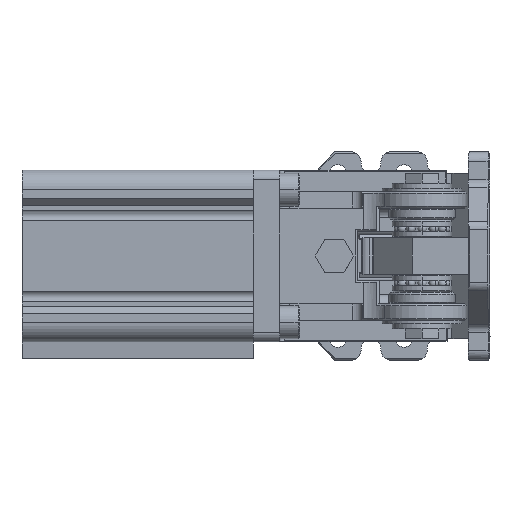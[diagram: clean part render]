
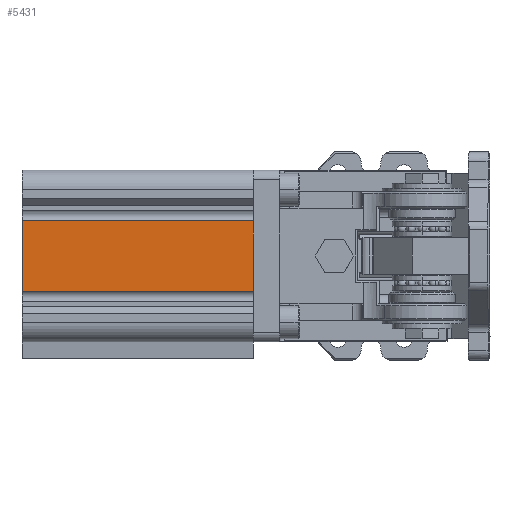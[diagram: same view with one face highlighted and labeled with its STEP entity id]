
A CAD part, left-side view. The second image highlights one B-rep face of the part: STEP entity #5431.
In plain terms, the highlighted planar face has unit normal (-1, 0, 0).
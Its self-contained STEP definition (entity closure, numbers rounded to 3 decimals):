
#499=FACE_OUTER_BOUND('',#7472,.T.);
#1813=LINE('',#32231,#3416);
#1814=LINE('',#32234,#3417);
#1815=LINE('',#32236,#3418);
#1816=LINE('',#32238,#3419);
#3416=VECTOR('',#22304,1.);
#3417=VECTOR('',#22305,1.);
#3418=VECTOR('',#22306,1.);
#3419=VECTOR('',#22307,1.);
#5431=ADVANCED_FACE('',(#499),#6622,.T.);
#6622=PLANE('',#19998);
#7472=EDGE_LOOP('',(#8966,#8967,#8968,#8969));
#8966=ORIENTED_EDGE('',*,*,#16275,.T.);
#8967=ORIENTED_EDGE('',*,*,#16276,.F.);
#8968=ORIENTED_EDGE('',*,*,#16277,.F.);
#8969=ORIENTED_EDGE('',*,*,#16278,.T.);
#14472=VERTEX_POINT('',#32232);
#14473=VERTEX_POINT('',#32233);
#14474=VERTEX_POINT('',#32235);
#14475=VERTEX_POINT('',#32237);
#16275=EDGE_CURVE('',#14472,#14473,#1813,.T.);
#16276=EDGE_CURVE('',#14474,#14473,#1814,.T.);
#16277=EDGE_CURVE('',#14475,#14474,#1815,.T.);
#16278=EDGE_CURVE('',#14475,#14472,#1816,.T.);
#19998=AXIS2_PLACEMENT_3D('',#32239,#22308,#22309);
#22304=DIRECTION('',(0.,1.,0.));
#22305=DIRECTION('',(0.,0.,1.));
#22306=DIRECTION('',(0.,1.,0.));
#22307=DIRECTION('',(0.,0.,1.));
#22308=DIRECTION('',(-1.,0.,0.));
#22309=DIRECTION('',(0.,0.,-1.));
#32231=CARTESIAN_POINT('',(202.2,0.,-15.2));
#32232=CARTESIAN_POINT('',(202.2,0.,-15.2));
#32233=CARTESIAN_POINT('',(202.2,70.,-15.2));
#32234=CARTESIAN_POINT('',(202.2,70.,-36.8));
#32235=CARTESIAN_POINT('',(202.2,70.,-36.8));
#32236=CARTESIAN_POINT('',(202.2,0.,-36.8));
#32237=CARTESIAN_POINT('',(202.2,0.,-36.8));
#32238=CARTESIAN_POINT('',(202.2,0.,-36.8));
#32239=CARTESIAN_POINT('',(202.2,64.5,-41.31));
